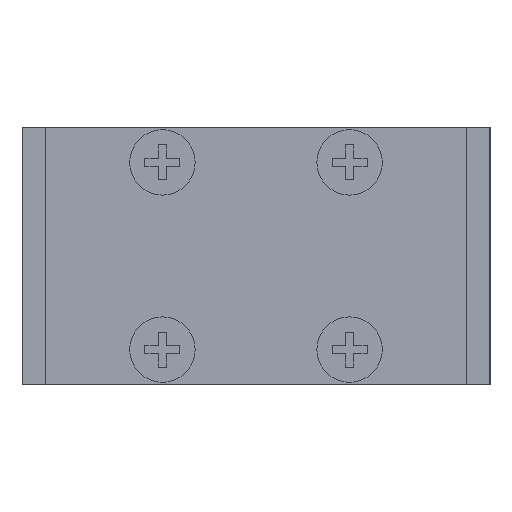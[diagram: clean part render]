
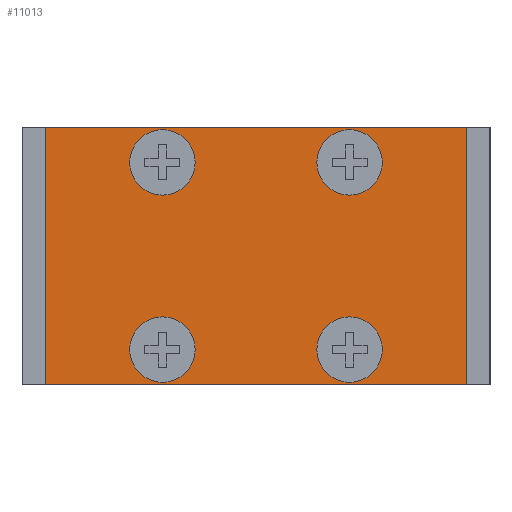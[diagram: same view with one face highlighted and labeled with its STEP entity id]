
A CAD part, left-side view. The second image highlights one B-rep face of the part: STEP entity #11013.
In plain terms, the highlighted planar face has unit normal (-1, 0, 0).
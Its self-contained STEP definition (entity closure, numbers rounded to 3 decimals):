
#873=LINE('',#16973,#1642);
#874=LINE('',#16976,#1643);
#875=LINE('',#16978,#1644);
#876=LINE('',#16980,#1645);
#1642=VECTOR('',#13067,1000.);
#1643=VECTOR('',#13068,1000.);
#1644=VECTOR('',#13069,1000.);
#1645=VECTOR('',#13070,1000.);
#2054=PLANE('',#11517);
#3902=ORIENTED_EDGE('',*,*,#5134,.T.);
#3903=ORIENTED_EDGE('',*,*,#5135,.T.);
#3904=ORIENTED_EDGE('',*,*,#5136,.T.);
#3905=ORIENTED_EDGE('',*,*,#5137,.T.);
#3906=ORIENTED_EDGE('',*,*,#5138,.F.);
#3907=ORIENTED_EDGE('',*,*,#5139,.F.);
#3908=ORIENTED_EDGE('',*,*,#5140,.T.);
#3909=ORIENTED_EDGE('',*,*,#5141,.T.);
#5134=EDGE_CURVE('',#5940,#5940,#6173,.T.);
#5135=EDGE_CURVE('',#5941,#5941,#6174,.T.);
#5136=EDGE_CURVE('',#5942,#5943,#873,.T.);
#5137=EDGE_CURVE('',#5943,#5944,#874,.T.);
#5138=EDGE_CURVE('',#5945,#5944,#875,.T.);
#5139=EDGE_CURVE('',#5942,#5945,#876,.T.);
#5140=EDGE_CURVE('',#5946,#5946,#6175,.T.);
#5141=EDGE_CURVE('',#5947,#5947,#6176,.T.);
#5940=VERTEX_POINT('',#16970);
#5941=VERTEX_POINT('',#16972);
#5942=VERTEX_POINT('',#16974);
#5943=VERTEX_POINT('',#16975);
#5944=VERTEX_POINT('',#16977);
#5945=VERTEX_POINT('',#16979);
#5946=VERTEX_POINT('',#16982);
#5947=VERTEX_POINT('',#16984);
#6173=CIRCLE('',#11518,2.8);
#6174=CIRCLE('',#11519,2.8);
#6175=CIRCLE('',#11520,2.8);
#6176=CIRCLE('',#11521,2.8);
#6707=EDGE_LOOP('',(#3902));
#6708=EDGE_LOOP('',(#3903));
#6709=EDGE_LOOP('',(#3904,#3905,#3906,#3907));
#6710=EDGE_LOOP('',(#3908));
#6711=EDGE_LOOP('',(#3909));
#7325=FACE_BOUND('',#6707,.T.);
#7326=FACE_BOUND('',#6708,.T.);
#7327=FACE_BOUND('',#6709,.T.);
#7328=FACE_BOUND('',#6710,.T.);
#7329=FACE_BOUND('',#6711,.T.);
#11013=ADVANCED_FACE('',(#7325,#7326,#7327,#7328,#7329),#2054,.T.);
#11517=AXIS2_PLACEMENT_3D('',#16968,#13061,#13062);
#11518=AXIS2_PLACEMENT_3D('',#16969,#13063,#13064);
#11519=AXIS2_PLACEMENT_3D('',#16971,#13065,#13066);
#11520=AXIS2_PLACEMENT_3D('',#16981,#13071,#13072);
#11521=AXIS2_PLACEMENT_3D('',#16983,#13073,#13074);
#13061=DIRECTION('',(-1.,0.,0.));
#13062=DIRECTION('',(0.,-1.,0.));
#13063=DIRECTION('',(1.,0.,0.));
#13064=DIRECTION('',(0.,1.,0.));
#13065=DIRECTION('',(1.,0.,0.));
#13066=DIRECTION('',(0.,1.,0.));
#13067=DIRECTION('',(0.,-1.,0.));
#13068=DIRECTION('',(0.,0.,1.));
#13069=DIRECTION('',(0.,-1.,0.));
#13070=DIRECTION('',(0.,0.,1.));
#13071=DIRECTION('',(1.,0.,0.));
#13072=DIRECTION('',(0.,1.,0.));
#13073=DIRECTION('',(1.,0.,0.));
#13074=DIRECTION('',(0.,1.,0.));
#16968=CARTESIAN_POINT('',(-86.,18.,-11.));
#16969=CARTESIAN_POINT('',(-86.,8.,-8.));
#16970=CARTESIAN_POINT('',(-86.,10.8,-8.));
#16971=CARTESIAN_POINT('',(-86.,-8.,-8.));
#16972=CARTESIAN_POINT('',(-86.,-5.2,-8.));
#16973=CARTESIAN_POINT('',(-86.,18.,-11.));
#16974=CARTESIAN_POINT('',(-86.,18.,-11.));
#16975=CARTESIAN_POINT('',(-86.,-18.,-11.));
#16976=CARTESIAN_POINT('',(-86.,-18.,-11.));
#16977=CARTESIAN_POINT('',(-86.,-18.,11.));
#16978=CARTESIAN_POINT('',(-86.,18.,11.));
#16979=CARTESIAN_POINT('',(-86.,18.,11.));
#16980=CARTESIAN_POINT('',(-86.,18.,-11.));
#16981=CARTESIAN_POINT('',(-86.,-8.,8.));
#16982=CARTESIAN_POINT('',(-86.,-5.2,8.));
#16983=CARTESIAN_POINT('',(-86.,8.,8.));
#16984=CARTESIAN_POINT('',(-86.,10.8,8.));
